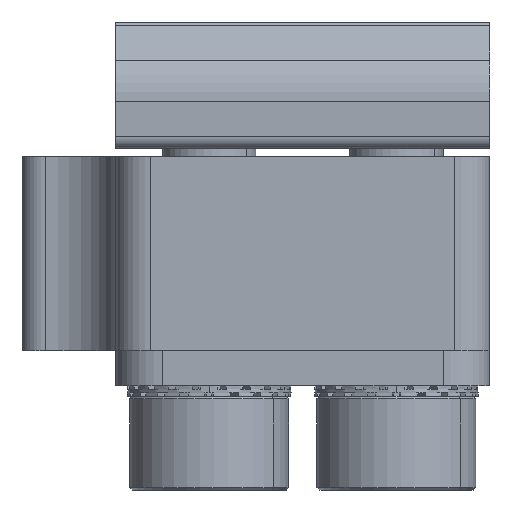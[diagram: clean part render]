
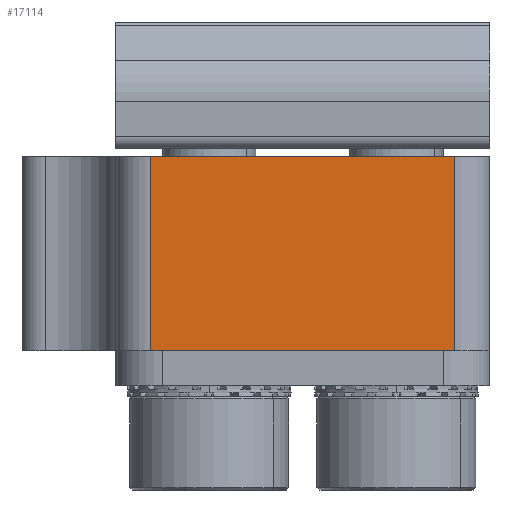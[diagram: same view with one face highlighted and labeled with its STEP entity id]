
A CAD part, front view. The second image highlights one B-rep face of the part: STEP entity #17114.
In plain terms, the highlighted planar face has unit normal (0, -1, 0).
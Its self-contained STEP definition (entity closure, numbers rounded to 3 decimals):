
#583 = EDGE_CURVE ( 'NONE', #29840, #17177, #14006, .T. ) ;
#716 = DIRECTION ( 'NONE',  ( -1., 0., 0. ) ) ;
#2582 = CARTESIAN_POINT ( 'NONE',  ( -88.831, -7.453, 36.795 ) ) ;
#2974 = DIRECTION ( 'NONE',  ( 0., -1., 0. ) ) ;
#3354 = ORIENTED_EDGE ( 'NONE', *, *, #31556, .T. ) ;
#3475 = VECTOR ( 'NONE', #3977, 1000. ) ;
#3977 = DIRECTION ( 'NONE',  ( 0., 0., 1. ) ) ;
#4521 = DIRECTION ( 'NONE',  ( 0., 0., -1. ) ) ;
#4966 = VERTEX_POINT ( 'NONE', #2582 ) ;
#4996 = VECTOR ( 'NONE', #4521, 1000. ) ;
#5225 = CARTESIAN_POINT ( 'NONE',  ( -88.831, -7.453, 28.495 ) ) ;
#5593 = LINE ( 'NONE', #27110, #14618 ) ;
#5737 = CARTESIAN_POINT ( 'NONE',  ( -87.331, -7.453, 28.495 ) ) ;
#6960 = CARTESIAN_POINT ( 'NONE',  ( -101.831, -7.453, 28.495 ) ) ;
#7034 = LINE ( 'NONE', #14080, #3475 ) ;
#11659 = EDGE_LOOP ( 'NONE', ( #3354, #17224, #12309, #15892 ) ) ;
#12309 = ORIENTED_EDGE ( 'NONE', *, *, #30054, .F. ) ;
#13509 = FACE_OUTER_BOUND ( 'NONE', #11659, .T. ) ;
#14006 = LINE ( 'NONE', #6960, #4996 ) ;
#14080 = CARTESIAN_POINT ( 'NONE',  ( -88.831, -7.453, 36.795 ) ) ;
#14618 = VECTOR ( 'NONE', #27333, 1000. ) ;
#15892 = ORIENTED_EDGE ( 'NONE', *, *, #20519, .T. ) ;
#17114 = ADVANCED_FACE ( 'NONE', ( #13509 ), #23197, .T. ) ;
#17177 = VERTEX_POINT ( 'NONE', #28228 ) ;
#17224 = ORIENTED_EDGE ( 'NONE', *, *, #583, .T. ) ;
#18894 = AXIS2_PLACEMENT_3D ( 'NONE', #25827, #2974, #27802 ) ;
#20268 = LINE ( 'NONE', #5737, #29246 ) ;
#20519 = EDGE_CURVE ( 'NONE', #31929, #4966, #7034, .T. ) ;
#23197 = PLANE ( 'NONE',  #18894 ) ;
#25827 = CARTESIAN_POINT ( 'NONE',  ( -87.331, -7.453, 36.795 ) ) ;
#27110 = CARTESIAN_POINT ( 'NONE',  ( -87.331, -7.453, 36.795 ) ) ;
#27333 = DIRECTION ( 'NONE',  ( -1., 0., 0. ) ) ;
#27802 = DIRECTION ( 'NONE',  ( 0., 0., -1. ) ) ;
#28228 = CARTESIAN_POINT ( 'NONE',  ( -101.831, -7.453, 28.495 ) ) ;
#29246 = VECTOR ( 'NONE', #716, 1000. ) ;
#29350 = CARTESIAN_POINT ( 'NONE',  ( -101.831, -7.453, 36.795 ) ) ;
#29840 = VERTEX_POINT ( 'NONE', #29350 ) ;
#30054 = EDGE_CURVE ( 'NONE', #31929, #17177, #20268, .T. ) ;
#31556 = EDGE_CURVE ( 'NONE', #4966, #29840, #5593, .T. ) ;
#31929 = VERTEX_POINT ( 'NONE', #5225 ) ;
